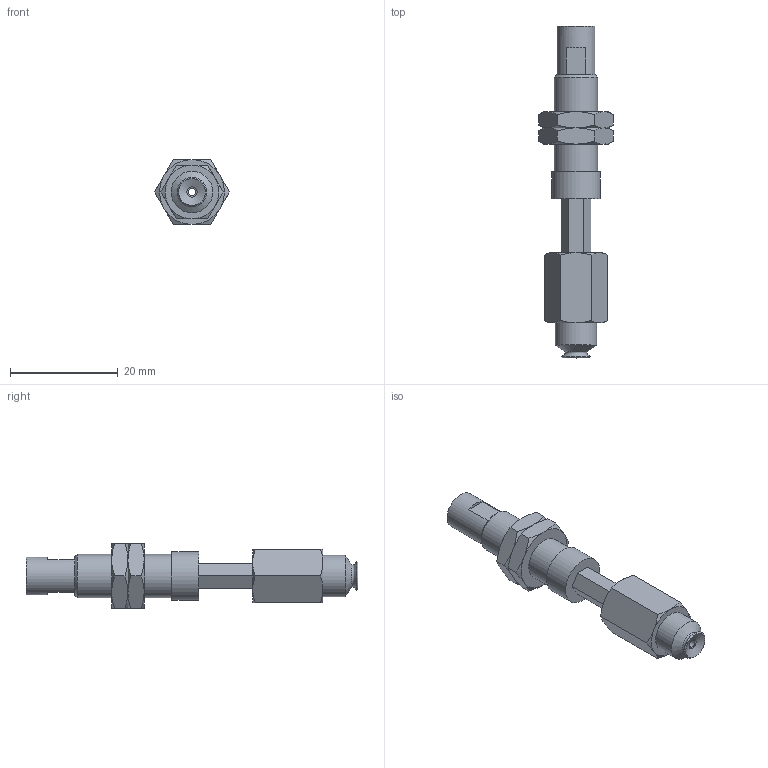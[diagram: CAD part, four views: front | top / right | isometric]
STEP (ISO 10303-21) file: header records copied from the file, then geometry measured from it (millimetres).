
FILE_DESCRIPTION(('STEP AP203'),'1');
FILE_NAME('.stp','2025-08-27T02:48:32',(' '),(' '),'Spatial InterOp 3D',' ',' ');
FILE_SCHEMA(('CONFIG_CONTROL_DESIGN'));
Length unit declared in the file: millimetre
Products named in the file (6): BNABPFTH-5A-10-※; ADAPTER; NAPATH-10A-10--M; Nut-5A-10-h; NAPFTH-5A-10-FBODY; BPFG-5A-※
Assembly tree (6 placements, depth 2):
  BNABPFTH-5A-10-※
    ADAPTER
    NAPATH-10A-10--M
    Nut-5A-10-h  x2
    NAPFTH-5A-10-FBODY
    BPFG-5A-※
Bounding box: 13.86 x 61.5 x 12 mm (x, y, z)
Volume: 3369.4 mm3; surface area: 3951.9 mm2
Topology: 6 solids, 6 shells, 122 faces, 264 edges, 160 vertices
Faces by surface type: plane 52, cone 46, cylinder 14, torus 9, bspline 1
Full cylindrical faces by diameter (mm): 1.4 x1, 2 x2, 4 x2, 4.134 x1, 6 x2, 7 x1, 7.188 x2, 7.7 x1, 8 x1, 9 x1
Entity records: 2983 total; most frequent: CARTESIAN_POINT 721, DIRECTION 408, ORIENTED_EDGE 352, EDGE_CURVE 176, AXIS2_PLACEMENT_3D 175, EDGE_LOOP 146, VERTEX_POINT 124, FACE_OUTER_BOUND 122
